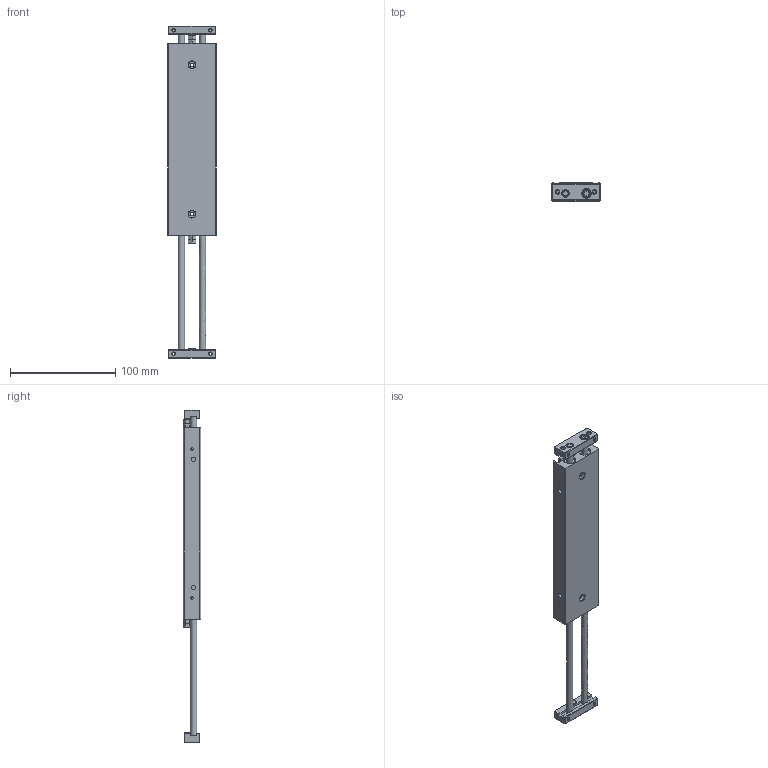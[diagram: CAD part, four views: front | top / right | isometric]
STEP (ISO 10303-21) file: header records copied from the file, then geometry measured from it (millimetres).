
FILE_DESCRIPTION((''),'2;1');
FILE_NAME('I:\3D電子目錄\氣缸\STX\STX\STX10\STX10x100.stp','2007-10-01T16:54:28',('Administrator'),(''),'Autodesk Inventor 11','Autodesk Inventor 11','');
FILE_SCHEMA(('AUTOMOTIVE_DESIGN { 1 0 10303 214 1 1 1 1 }'));
Length unit declared in the file: millimetre
Products named in the file (1): STX10
Bounding box: 46 x 17.04 x 316 mm (x, y, z)
Volume: 144517.9 mm3; surface area: 40913.7 mm2
Topology: 1 solids, 1 shells, 269 faces, 644 edges, 400 vertices
Faces by surface type: plane 135, cone 72, bspline 36, cylinder 22, torus 4
Full cylindrical faces by diameter (mm): 2.459 x2, 4.134 x2, 6 x6, 6.2 x2, 6.5 x2, 7 x2, 8 x2, 11 x2, 12 x2
Entity records: 7637 total; most frequent: CARTESIAN_POINT 2109, ORIENTED_EDGE 1082, DIRECTION 1076, EDGE_CURVE 541, AXIS2_PLACEMENT_3D 405, EDGE_LOOP 399, VERTEX_POINT 374, FACE_OUTER_BOUND 269
